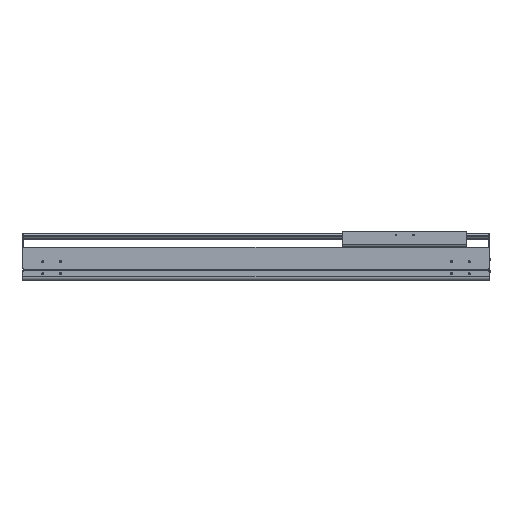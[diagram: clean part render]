
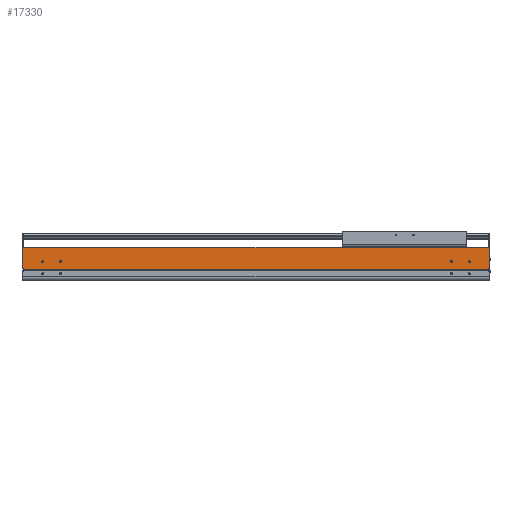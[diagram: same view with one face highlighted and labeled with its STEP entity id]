
A CAD part, top view. The second image highlights one B-rep face of the part: STEP entity #17330.
In plain terms, the highlighted planar face has unit normal (0, 0, 1).
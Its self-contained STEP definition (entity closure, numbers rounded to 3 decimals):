
#510=DIRECTION('',(0.,-1.,0.));
#511=VECTOR('',#510,2.55);
#512=CARTESIAN_POINT('',(0.,34.65,107.));
#513=LINE('',#512,#511);
#2135=DIRECTION('',(1.,0.,0.));
#2136=VECTOR('',#2135,2.);
#2137=CARTESIAN_POINT('',(0.,34.65,107.));
#2138=LINE('',#2137,#2136);
#2143=CARTESIAN_POINT('',(-54.5,54.,107.));
#2144=DIRECTION('',(0.,0.,-1.));
#2145=DIRECTION('',(1.,0.,0.));
#2146=AXIS2_PLACEMENT_3D('',#2143,#2144,#2145);
#2148=CARTESIAN_POINT('',(-54.5,54.,107.));
#2149=DIRECTION('',(0.,0.,-1.));
#2150=DIRECTION('',(-1.,0.,0.));
#2151=AXIS2_PLACEMENT_3D('',#2148,#2149,#2150);
#2153=CARTESIAN_POINT('',(-104.5,54.,107.));
#2154=DIRECTION('',(0.,0.,-1.));
#2155=DIRECTION('',(1.,0.,0.));
#2156=AXIS2_PLACEMENT_3D('',#2153,#2154,#2155);
#2158=CARTESIAN_POINT('',(-104.5,54.,107.));
#2159=DIRECTION('',(0.,0.,-1.));
#2160=DIRECTION('',(-1.,0.,0.));
#2161=AXIS2_PLACEMENT_3D('',#2158,#2159,#2160);
#2163=CARTESIAN_POINT('',(-1254.5,54.,107.));
#2164=DIRECTION('',(0.,0.,-1.));
#2165=DIRECTION('',(1.,0.,0.));
#2166=AXIS2_PLACEMENT_3D('',#2163,#2164,#2165);
#2168=CARTESIAN_POINT('',(-1254.5,54.,107.));
#2169=DIRECTION('',(0.,0.,-1.));
#2170=DIRECTION('',(-1.,0.,0.));
#2171=AXIS2_PLACEMENT_3D('',#2168,#2169,#2170);
#2173=CARTESIAN_POINT('',(-1204.5,54.,107.));
#2174=DIRECTION('',(0.,0.,-1.));
#2175=DIRECTION('',(1.,0.,0.));
#2176=AXIS2_PLACEMENT_3D('',#2173,#2174,#2175);
#2178=CARTESIAN_POINT('',(-1204.5,54.,107.));
#2179=DIRECTION('',(0.,0.,-1.));
#2180=DIRECTION('',(-1.,0.,0.));
#2181=AXIS2_PLACEMENT_3D('',#2178,#2179,#2180);
#2183=DIRECTION('',(0.,-1.,0.));
#2184=VECTOR('',#2183,2.55);
#2185=CARTESIAN_POINT('',(-1309.,34.65,107.));
#2186=LINE('',#2185,#2184);
#2187=DIRECTION('',(0.,-1.,0.));
#2188=VECTOR('',#2187,58.85);
#2189=CARTESIAN_POINT('',(-1311.,93.5,107.));
#2190=LINE('',#2189,#2188);
#2191=DIRECTION('',(0.,1.,0.));
#2192=VECTOR('',#2191,58.85);
#2193=CARTESIAN_POINT('',(2.,34.65,107.));
#2194=LINE('',#2193,#2192);
#2195=DIRECTION('',(1.,0.,0.));
#2196=VECTOR('',#2195,1309.);
#2197=CARTESIAN_POINT('',(-1309.,32.1,107.));
#2198=LINE('',#2197,#2196);
#2307=DIRECTION('',(1.,0.,0.));
#2308=VECTOR('',#2307,2.);
#2309=CARTESIAN_POINT('',(-1311.,34.65,107.));
#2310=LINE('',#2309,#2308);
#2311=DIRECTION('',(-1.,0.,0.));
#2312=VECTOR('',#2311,1313.);
#2313=CARTESIAN_POINT('',(2.,93.5,107.));
#2314=LINE('',#2313,#2312);
#11651=CARTESIAN_POINT('',(-1311.,34.65,107.));
#11652=VERTEX_POINT('',#11651);
#11653=CARTESIAN_POINT('',(-1311.,93.5,107.));
#11654=VERTEX_POINT('',#11653);
#11883=CARTESIAN_POINT('',(-1309.,32.1,107.));
#11884=VERTEX_POINT('',#11883);
#12370=CARTESIAN_POINT('',(0.,32.1,107.));
#12371=VERTEX_POINT('',#12370);
#12372=CARTESIAN_POINT('',(-52.,54.,107.));
#12373=CARTESIAN_POINT('',(-57.,54.,107.));
#12374=VERTEX_POINT('',#12372);
#12375=VERTEX_POINT('',#12373);
#12376=CARTESIAN_POINT('',(-102.,54.,107.));
#12377=CARTESIAN_POINT('',(-107.,54.,107.));
#12378=VERTEX_POINT('',#12376);
#12379=VERTEX_POINT('',#12377);
#12380=CARTESIAN_POINT('',(-1252.,54.,107.));
#12381=CARTESIAN_POINT('',(-1257.,54.,107.));
#12382=VERTEX_POINT('',#12380);
#12383=VERTEX_POINT('',#12381);
#12384=CARTESIAN_POINT('',(-1202.,54.,107.));
#12385=CARTESIAN_POINT('',(-1207.,54.,107.));
#12386=VERTEX_POINT('',#12384);
#12387=VERTEX_POINT('',#12385);
#13477=CARTESIAN_POINT('',(2.,34.65,107.));
#13478=VERTEX_POINT('',#13477);
#13479=CARTESIAN_POINT('',(2.,93.5,107.));
#13480=VERTEX_POINT('',#13479);
#13823=CARTESIAN_POINT('',(0.,34.65,107.));
#13824=VERTEX_POINT('',#13823);
#14011=CARTESIAN_POINT('',(-1309.,34.65,107.));
#14012=VERTEX_POINT('',#14011);
#17288=CARTESIAN_POINT('',(-654.5,62.8,107.));
#17289=DIRECTION('',(0.,0.,1.));
#17290=DIRECTION('',(0.,-1.,0.));
#17291=AXIS2_PLACEMENT_3D('',#17288,#17289,#17290);
#17292=PLANE('',#17291);
#17293=ORIENTED_EDGE('',*,*,#14756,.F.);
#17295=ORIENTED_EDGE('',*,*,#17294,.F.);
#17296=ORIENTED_EDGE('',*,*,#15856,.F.);
#17298=ORIENTED_EDGE('',*,*,#17297,.F.);
#17299=ORIENTED_EDGE('',*,*,#17086,.F.);
#17300=ORIENTED_EDGE('',*,*,#17281,.F.);
#17301=ORIENTED_EDGE('',*,*,#15373,.T.);
#17303=ORIENTED_EDGE('',*,*,#17302,.F.);
#17304=EDGE_LOOP('',(#17293,#17295,#17296,#17298,#17299,#17300,#17301,#17303));
#17305=FACE_OUTER_BOUND('',#17304,.F.);
#17307=ORIENTED_EDGE('',*,*,#17306,.F.);
#17309=ORIENTED_EDGE('',*,*,#17308,.F.);
#17310=EDGE_LOOP('',(#17307,#17309));
#17311=FACE_BOUND('',#17310,.F.);
#17313=ORIENTED_EDGE('',*,*,#17312,.F.);
#17315=ORIENTED_EDGE('',*,*,#17314,.F.);
#17316=EDGE_LOOP('',(#17313,#17315));
#17317=FACE_BOUND('',#17316,.F.);
#17319=ORIENTED_EDGE('',*,*,#17318,.F.);
#17321=ORIENTED_EDGE('',*,*,#17320,.F.);
#17322=EDGE_LOOP('',(#17319,#17321));
#17323=FACE_BOUND('',#17322,.F.);
#17325=ORIENTED_EDGE('',*,*,#17324,.F.);
#17327=ORIENTED_EDGE('',*,*,#17326,.F.);
#17328=EDGE_LOOP('',(#17325,#17327));
#17329=FACE_BOUND('',#17328,.F.);
#17330=ADVANCED_FACE('',(#17305,#17311,#17317,#17323,#17329),#17292,.T.);
#2147=CIRCLE('',#2146,2.5);
#2152=CIRCLE('',#2151,2.5);
#2157=CIRCLE('',#2156,2.5);
#2162=CIRCLE('',#2161,2.5);
#2167=CIRCLE('',#2166,2.5);
#2172=CIRCLE('',#2171,2.5);
#2177=CIRCLE('',#2176,2.5);
#2182=CIRCLE('',#2181,2.5);
#14756=EDGE_CURVE('',#14012,#11884,#2186,.T.);
#15373=EDGE_CURVE('',#13824,#12371,#513,.T.);
#15856=EDGE_CURVE('',#11654,#11652,#2190,.T.);
#17086=EDGE_CURVE('',#13478,#13480,#2194,.T.);
#17281=EDGE_CURVE('',#13824,#13478,#2138,.T.);
#17294=EDGE_CURVE('',#11652,#14012,#2310,.T.);
#17297=EDGE_CURVE('',#13480,#11654,#2314,.T.);
#17302=EDGE_CURVE('',#11884,#12371,#2198,.T.);
#17306=EDGE_CURVE('',#12378,#12379,#2157,.T.);
#17308=EDGE_CURVE('',#12379,#12378,#2162,.T.);
#17312=EDGE_CURVE('',#12382,#12383,#2167,.T.);
#17314=EDGE_CURVE('',#12383,#12382,#2172,.T.);
#17318=EDGE_CURVE('',#12386,#12387,#2177,.T.);
#17320=EDGE_CURVE('',#12387,#12386,#2182,.T.);
#17324=EDGE_CURVE('',#12374,#12375,#2147,.T.);
#17326=EDGE_CURVE('',#12375,#12374,#2152,.T.);
